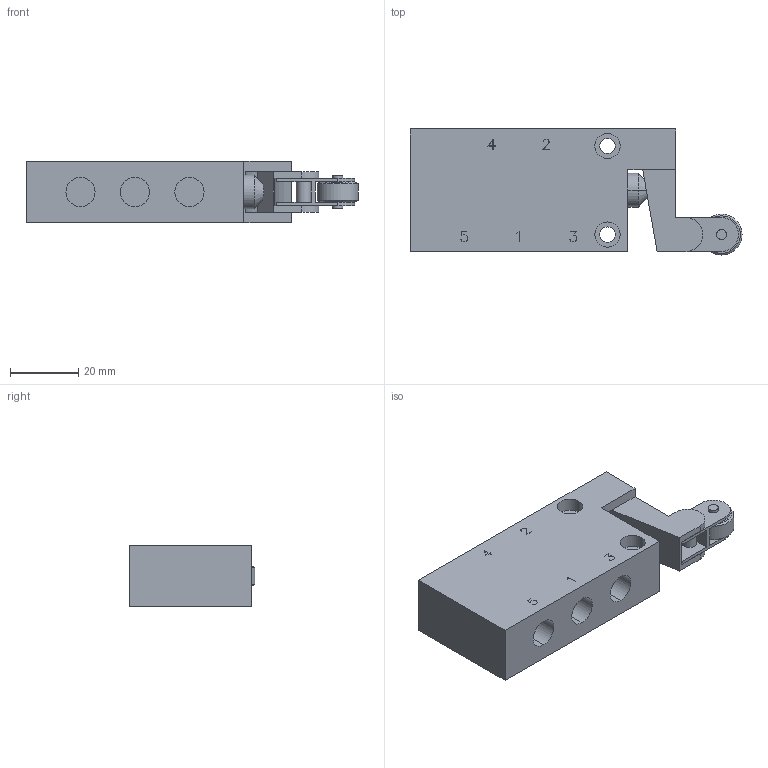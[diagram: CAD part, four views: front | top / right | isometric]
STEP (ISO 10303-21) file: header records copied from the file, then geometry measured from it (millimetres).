
FILE_DESCRIPTION (( 'STEP AP203' ), '1' );
FILE_NAME ('EL-18-510-Airtec.step', '2006-10-17T15:21:48', ( 'Gustaf Hederström' ), ( 'Cevican AB' ), 'SwSTEP 2.0', 'SolidWorks 2002308', '' );
FILE_SCHEMA (( 'CONFIG_CONTROL_DESIGN' ));
Length unit declared in the file: millimetre
Products named in the file (1): EL-18-510-Airtec
Bounding box: 97.5 x 37 x 18 mm (x, y, z)
Volume: 43569.8 mm3; surface area: 13803.6 mm2
Topology: 1 solids, 1 shells, 343 faces, 942 edges, 624 vertices
Faces by surface type: plane 291, cylinder 46, cone 6
Entity records: 10840 total; most frequent: CARTESIAN_POINT 1919, ORIENTED_EDGE 1884, DIRECTION 1724, EDGE_CURVE 942, LINE 844, VECTOR 844, VERTEX_POINT 624, AXIS2_PLACEMENT_3D 440
